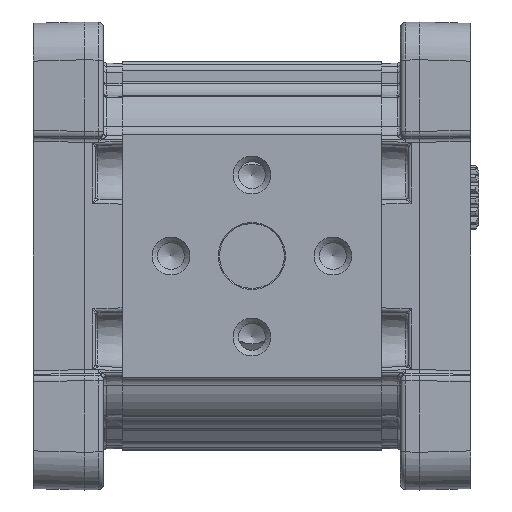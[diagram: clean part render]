
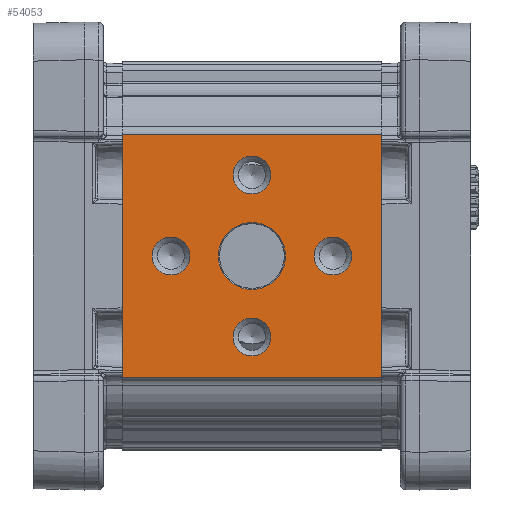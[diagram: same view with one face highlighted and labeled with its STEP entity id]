
A CAD part, left-side view. The second image highlights one B-rep face of the part: STEP entity #54053.
In plain terms, the highlighted planar face has unit normal (-1, 0, 0).
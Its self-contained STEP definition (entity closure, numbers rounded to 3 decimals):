
#3024=LINE('',#88563,#4682);
#3034=LINE('',#88664,#4692);
#3053=LINE('',#88712,#4711);
#3054=LINE('',#88714,#4712);
#4682=VECTOR('',#65647,1000.);
#4692=VECTOR('',#65739,1000.);
#4711=VECTOR('',#65794,1000.);
#4712=VECTOR('',#65797,1000.);
#12632=ORIENTED_EDGE('',*,*,#21276,.T.);
#12633=ORIENTED_EDGE('',*,*,#21277,.T.);
#12634=ORIENTED_EDGE('',*,*,#21278,.T.);
#12635=ORIENTED_EDGE('',*,*,#21279,.T.);
#12636=ORIENTED_EDGE('',*,*,#21280,.T.);
#12637=ORIENTED_EDGE('',*,*,#21256,.T.);
#12638=ORIENTED_EDGE('',*,*,#21228,.T.);
#12639=ORIENTED_EDGE('',*,*,#21257,.T.);
#12640=ORIENTED_EDGE('',*,*,#21178,.F.);
#21178=EDGE_CURVE('',#25849,#25850,#3024,.T.);
#21228=EDGE_CURVE('',#25900,#25899,#3034,.T.);
#21256=EDGE_CURVE('',#25849,#25900,#3053,.T.);
#21257=EDGE_CURVE('',#25899,#25850,#3054,.F.);
#21276=EDGE_CURVE('',#25919,#25919,#28921,.F.);
#21277=EDGE_CURVE('',#25920,#25920,#28922,.F.);
#21278=EDGE_CURVE('',#25921,#25921,#28923,.F.);
#21279=EDGE_CURVE('',#25922,#25922,#28924,.F.);
#21280=EDGE_CURVE('',#25923,#25923,#28925,.F.);
#25849=VERTEX_POINT('',#88562);
#25850=VERTEX_POINT('',#88564);
#25899=VERTEX_POINT('',#88663);
#25900=VERTEX_POINT('',#88665);
#25919=VERTEX_POINT('',#88837);
#25920=VERTEX_POINT('',#88839);
#25921=VERTEX_POINT('',#88841);
#25922=VERTEX_POINT('',#88843);
#25923=VERTEX_POINT('',#88845);
#28921=CIRCLE('',#57724,3.5);
#28922=CIRCLE('',#57725,3.5);
#28923=CIRCLE('',#57726,3.5);
#28924=CIRCLE('',#57727,3.5);
#28925=CIRCLE('',#57728,6.2);
#31508=EDGE_LOOP('',(#12632));
#31509=EDGE_LOOP('',(#12633));
#31510=EDGE_LOOP('',(#12634));
#31511=EDGE_LOOP('',(#12635));
#31512=EDGE_LOOP('',(#12636));
#31513=EDGE_LOOP('',(#12637,#12638,#12639,#12640));
#34329=FACE_BOUND('',#31508,.T.);
#34330=FACE_BOUND('',#31509,.T.);
#34331=FACE_BOUND('',#31510,.T.);
#34332=FACE_BOUND('',#31511,.T.);
#34333=FACE_BOUND('',#31512,.T.);
#34334=FACE_BOUND('',#31513,.T.);
#36014=PLANE('',#57723);
#54053=ADVANCED_FACE('',(#34329,#34330,#34331,#34332,#34333,#34334),#36014,
 .T.);
#57723=AXIS2_PLACEMENT_3D('',#88835,#65840,#65841);
#57724=AXIS2_PLACEMENT_3D('',#88836,#65842,#65843);
#57725=AXIS2_PLACEMENT_3D('',#88838,#65844,#65845);
#57726=AXIS2_PLACEMENT_3D('',#88840,#65846,#65847);
#57727=AXIS2_PLACEMENT_3D('',#88842,#65848,#65849);
#57728=AXIS2_PLACEMENT_3D('',#88844,#65850,#65851);
#65647=DIRECTION('',(0.,0.,1.));
#65739=DIRECTION('',(0.,0.,1.));
#65794=DIRECTION('',(0.,-1.,0.));
#65797=DIRECTION('',(0.,-1.,0.));
#65840=DIRECTION('',(-1.,0.,0.));
#65841=DIRECTION('',(0.,0.,1.));
#65842=DIRECTION('',(-1.,0.,0.));
#65843=DIRECTION('',(0.,0.,1.));
#65844=DIRECTION('',(-1.,0.,0.));
#65845=DIRECTION('',(0.,0.,1.));
#65846=DIRECTION('',(-1.,0.,0.));
#65847=DIRECTION('',(0.,0.,1.));
#65848=DIRECTION('',(-1.,0.,0.));
#65849=DIRECTION('',(0.,0.,1.));
#65850=DIRECTION('',(-1.,0.,0.));
#65851=DIRECTION('',(0.,0.,1.));
#88562=CARTESIAN_POINT('',(-33.,48.,-22.5));
#88563=CARTESIAN_POINT('',(-33.,48.,-21.711));
#88564=CARTESIAN_POINT('',(-33.,48.,22.5));
#88663=CARTESIAN_POINT('',(-33.,0.,22.5));
#88664=CARTESIAN_POINT('',(-33.,0.,-21.711));
#88665=CARTESIAN_POINT('',(-33.,0.,-22.5));
#88712=CARTESIAN_POINT('',(-33.,48.,-22.5));
#88714=CARTESIAN_POINT('',(-33.,48.,22.5));
#88835=CARTESIAN_POINT('',(-33.,127.15,48.138));
#88836=CARTESIAN_POINT('',(-33.,24.,-15.));
#88837=CARTESIAN_POINT('',(-33.,24.,-11.5));
#88838=CARTESIAN_POINT('',(-33.,9.,0.));
#88839=CARTESIAN_POINT('',(-33.,9.,3.5));
#88840=CARTESIAN_POINT('',(-33.,24.,15.));
#88841=CARTESIAN_POINT('',(-33.,24.,18.5));
#88842=CARTESIAN_POINT('',(-33.,39.,0.));
#88843=CARTESIAN_POINT('',(-33.,39.,3.5));
#88844=CARTESIAN_POINT('',(-33.,24.,0.));
#88845=CARTESIAN_POINT('',(-33.,24.,6.2));
